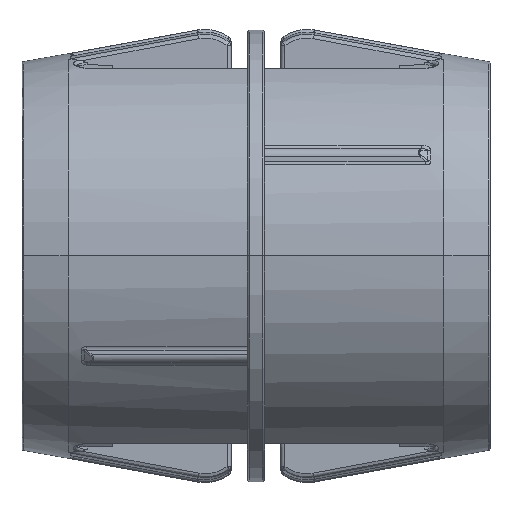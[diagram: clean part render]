
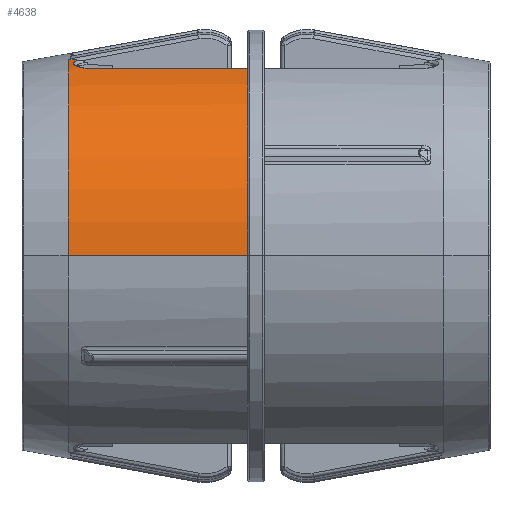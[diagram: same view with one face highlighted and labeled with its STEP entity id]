
A CAD part, top view. The second image highlights one B-rep face of the part: STEP entity #4638.
In plain terms, the highlighted cylindrical face has radius 24.85 mm (diameter 49.7 mm), a partial arc.
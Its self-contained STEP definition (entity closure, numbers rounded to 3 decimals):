
#673 = FACE_OUTER_BOUND ( 'NONE', #8582, .T. ) ;
#806 = VECTOR ( 'NONE', #10840, 1000. ) ;
#935 = CARTESIAN_POINT ( 'NONE',  ( -22.229, 23.382, 8.415 ) ) ;
#1191 = CARTESIAN_POINT ( 'NONE',  ( -1.051, 23.041, 9.307 ) ) ;
#1221 = CIRCLE ( 'NONE', #13122, 24.85 ) ;
#1384 = B_SPLINE_CURVE_WITH_KNOTS ( 'NONE', 3,
 ( #4578, #8859, #13078, #3445, #5497, #3520, #13152, #11755 ),
 .UNSPECIFIED., .F., .F.,
 ( 4, 2, 2, 4 ),
 ( 0., 0., 0., 0. ),
 .UNSPECIFIED. ) ;
#1495 = CARTESIAN_POINT ( 'NONE',  ( -21.851, 24.066, 6.192 ) ) ;
#1738 = VERTEX_POINT ( 'NONE', #12210 ) ;
#1866 = CYLINDRICAL_SURFACE ( 'NONE', #3389, 24.85 ) ;
#1920 = CARTESIAN_POINT ( 'NONE',  ( -21.911, 23.224, 8.843 ) ) ;
#1994 = CARTESIAN_POINT ( 'NONE',  ( -21.467, 23.103, 9.154 ) ) ;
#2124 = CARTESIAN_POINT ( 'NONE',  ( -21.959, 24.003, 6.433 ) ) ;
#2706 = CARTESIAN_POINT ( 'NONE',  ( -64.007, 0., 0. ) ) ;
#2905 = EDGE_CURVE ( 'NONE', #5428, #11411, #11167, .T. ) ;
#2912 = DIRECTION ( 'NONE',  ( -1., 0., 0. ) ) ;
#3150 = EDGE_CURVE ( 'NONE', #9202, #5428, #4462, .T. ) ;
#3265 = ORIENTED_EDGE ( 'NONE', *, *, #3150, .T. ) ;
#3389 = AXIS2_PLACEMENT_3D ( 'NONE', #2706, #2912, #3771 ) ;
#3445 = CARTESIAN_POINT ( 'NONE',  ( -22.97, 24.122, 5.971 ) ) ;
#3484 = VERTEX_POINT ( 'NONE', #11945 ) ;
#3520 = CARTESIAN_POINT ( 'NONE',  ( -23.056, 24.138, 5.907 ) ) ;
#3771 = DIRECTION ( 'NONE',  ( 0., 0., 1. ) ) ;
#4329 = ORIENTED_EDGE ( 'NONE', *, *, #12178, .F. ) ;
#4435 = EDGE_CURVE ( 'NONE', #11411, #3484, #1384, .T. ) ;
#4462 = B_SPLINE_CURVE_WITH_KNOTS ( 'NONE', 3,
 ( #6932, #11212, #8452, #1994, #5298, #1920, #6222, #935, #11630, #5093, #5233, #9588, #10496, #9376, #10631, #2124, #6156, #6428 ),
 .UNSPECIFIED., .F., .F.,
 ( 4, 2, 2, 2, 2, 2, 2, 2, 4 ),
 ( 0., 0.001, 0.001, 0.002, 0.002, 0.003, 0.003, 0.004, 0.004 ),
 .UNSPECIFIED. ) ;
#4578 = CARTESIAN_POINT ( 'NONE',  ( -22.737, 24.1, 6.058 ) ) ;
#4638 = ADVANCED_FACE ( 'NONE', ( #673 ), #1866, .T. ) ;
#5077 = VERTEX_POINT ( 'NONE', #11343 ) ;
#5093 = CARTESIAN_POINT ( 'NONE',  ( -22.4, 23.556, 7.916 ) ) ;
#5233 = CARTESIAN_POINT ( 'NONE',  ( -22.422, 23.614, 7.743 ) ) ;
#5298 = CARTESIAN_POINT ( 'NONE',  ( -21.627, 23.138, 9.066 ) ) ;
#5345 = CARTESIAN_POINT ( 'NONE',  ( -20.75, 23.041, 9.307 ) ) ;
#5428 = VERTEX_POINT ( 'NONE', #11331 ) ;
#5497 = CARTESIAN_POINT ( 'NONE',  ( -23.001, 24.126, 5.953 ) ) ;
#5794 = CARTESIAN_POINT ( 'NONE',  ( -22.03, 24.07, 6.177 ) ) ;
#6156 = CARTESIAN_POINT ( 'NONE',  ( -21.825, 24.037, 6.305 ) ) ;
#6222 = CARTESIAN_POINT ( 'NONE',  ( -22.032, 23.274, 8.711 ) ) ;
#6260 = EDGE_CURVE ( 'NONE', #10634, #9202, #12120, .T. ) ;
#6376 = ORIENTED_EDGE ( 'NONE', *, *, #6260, .T. ) ;
#6415 = DIRECTION ( 'NONE',  ( -1., 0., 0. ) ) ;
#6428 = CARTESIAN_POINT ( 'NONE',  ( -21.671, 24.064, 6.201 ) ) ;
#6429 = EDGE_CURVE ( 'NONE', #5077, #1738, #12794, .T. ) ;
#6506 = CARTESIAN_POINT ( 'NONE',  ( -1.051, 0., 0. ) ) ;
#6567 = CARTESIAN_POINT ( 'NONE',  ( -22.564, 24.088, 6.107 ) ) ;
#6691 = CARTESIAN_POINT ( 'NONE',  ( -23.079, 0., 0. ) ) ;
#6932 = CARTESIAN_POINT ( 'NONE',  ( -20.75, 23.041, 9.307 ) ) ;
#8256 = ORIENTED_EDGE ( 'NONE', *, *, #6429, .F. ) ;
#8452 = CARTESIAN_POINT ( 'NONE',  ( -21.118, 23.054, 9.276 ) ) ;
#8570 = CARTESIAN_POINT ( 'NONE',  ( -64.007, 0., 24.85 ) ) ;
#8582 = EDGE_LOOP ( 'NONE', ( #8256, #13705, #6376, #3265, #12834, #8763, #4329 ) ) ;
#8763 = ORIENTED_EDGE ( 'NONE', *, *, #4435, .T. ) ;
#8781 = DIRECTION ( 'NONE',  ( 0., 0., 1. ) ) ;
#8859 = CARTESIAN_POINT ( 'NONE',  ( -22.806, 24.105, 6.039 ) ) ;
#8893 = CARTESIAN_POINT ( 'NONE',  ( -22.737, 24.1, 6.058 ) ) ;
#9202 = VERTEX_POINT ( 'NONE', #5345 ) ;
#9376 = CARTESIAN_POINT ( 'NONE',  ( -22.263, 23.88, 6.879 ) ) ;
#9523 = EDGE_CURVE ( 'NONE', #5077, #10634, #1221, .T. ) ;
#9588 = CARTESIAN_POINT ( 'NONE',  ( -22.412, 23.727, 7.39 ) ) ;
#10082 = CARTESIAN_POINT ( 'NONE',  ( -22.737, 24.1, 6.058 ) ) ;
#10496 = CARTESIAN_POINT ( 'NONE',  ( -22.38, 23.78, 7.215 ) ) ;
#10631 = CARTESIAN_POINT ( 'NONE',  ( -22.177, 23.925, 6.718 ) ) ;
#10634 = VERTEX_POINT ( 'NONE', #1191 ) ;
#10840 = DIRECTION ( 'NONE',  ( -1., 0., 0. ) ) ;
#10988 = CARTESIAN_POINT ( 'NONE',  ( -64.007, 23.041, 9.307 ) ) ;
#11167 = B_SPLINE_CURVE_WITH_KNOTS ( 'NONE', 3,
 ( #12259, #1495, #5794, #13160, #6567, #10082 ),
 .UNSPECIFIED., .F., .F.,
 ( 4, 2, 4 ),
 ( 0.001, 0.001, 0.002 ),
 .UNSPECIFIED. ) ;
#11212 = CARTESIAN_POINT ( 'NONE',  ( -20.937, 23.041, 9.307 ) ) ;
#11331 = CARTESIAN_POINT ( 'NONE',  ( -21.671, 24.064, 6.201 ) ) ;
#11343 = CARTESIAN_POINT ( 'NONE',  ( -1.051, 0., 24.85 ) ) ;
#11411 = VERTEX_POINT ( 'NONE', #8893 ) ;
#11438 = CIRCLE ( 'NONE', #12988, 24.85 ) ;
#11616 = DIRECTION ( 'NONE',  ( -1., 0., 0. ) ) ;
#11630 = CARTESIAN_POINT ( 'NONE',  ( -22.303, 23.439, 8.256 ) ) ;
#11642 = DIRECTION ( 'NONE',  ( -1., 0., 0. ) ) ;
#11755 = CARTESIAN_POINT ( 'NONE',  ( -23.079, 24.154, 5.841 ) ) ;
#11777 = DIRECTION ( 'NONE',  ( 0., 0., 1. ) ) ;
#11945 = CARTESIAN_POINT ( 'NONE',  ( -23.079, 24.154, 5.841 ) ) ;
#12120 = LINE ( 'NONE', #10988, #806 ) ;
#12178 = EDGE_CURVE ( 'NONE', #1738, #3484, #11438, .T. ) ;
#12210 = CARTESIAN_POINT ( 'NONE',  ( -23.079, 0., 24.85 ) ) ;
#12259 = CARTESIAN_POINT ( 'NONE',  ( -21.671, 24.064, 6.201 ) ) ;
#12713 = VECTOR ( 'NONE', #11616, 1000. ) ;
#12794 = LINE ( 'NONE', #8570, #12713 ) ;
#12834 = ORIENTED_EDGE ( 'NONE', *, *, #2905, .T. ) ;
#12988 = AXIS2_PLACEMENT_3D ( 'NONE', #6691, #6415, #8781 ) ;
#13078 = CARTESIAN_POINT ( 'NONE',  ( -22.874, 24.11, 6.017 ) ) ;
#13122 = AXIS2_PLACEMENT_3D ( 'NONE', #6506, #11642, #11777 ) ;
#13152 = CARTESIAN_POINT ( 'NONE',  ( -23.079, 24.145, 5.876 ) ) ;
#13160 = CARTESIAN_POINT ( 'NONE',  ( -22.386, 24.081, 6.134 ) ) ;
#13705 = ORIENTED_EDGE ( 'NONE', *, *, #9523, .T. ) ;
